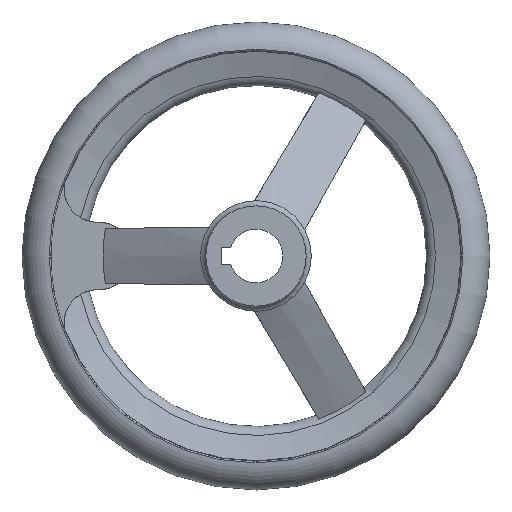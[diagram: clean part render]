
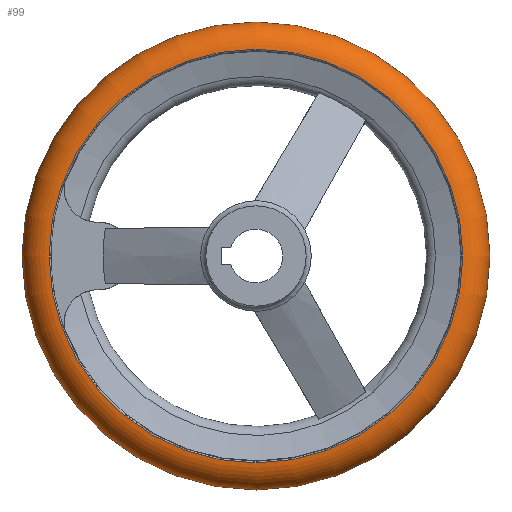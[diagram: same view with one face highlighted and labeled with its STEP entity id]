
A CAD part, left-side view. The second image highlights one B-rep face of the part: STEP entity #99.
In plain terms, the highlighted toroidal (fillet/blend) face has major radius 61.492 mm and minor radius 8.508 mm.
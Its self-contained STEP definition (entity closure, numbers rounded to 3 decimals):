
#99 = ADVANCED_FACE( '', ( #175, #176, #177 ), #178, .T. );
#175 = FACE_BOUND( '', #276, .T. );
#176 = FACE_OUTER_BOUND( '', #277, .T. );
#177 = FACE_OUTER_BOUND( '', #278, .T. );
#178 = TOROIDAL_SURFACE( '', #279, 61.492, 8.508 );
#276 = VERTEX_LOOP( '', #527 );
#277 = EDGE_LOOP( '', ( #528 ) );
#278 = EDGE_LOOP( '', ( #529 ) );
#279 = AXIS2_PLACEMENT_3D( '', #530, #531, #532 );
#527 = VERTEX_POINT( '', #744 );
#528 = ORIENTED_EDGE( '', *, *, #745, .T. );
#529 = ORIENTED_EDGE( '', *, *, #743, .F. );
#530 = CARTESIAN_POINT( '', ( 30.5, 0., 0. ) );
#531 = DIRECTION( '', ( -1., 0., 0. ) );
#532 = DIRECTION( '', ( 0., -1., 0. ) );
#743 = EDGE_CURVE( '', #914, #914, #915, .T. );
#744 = CARTESIAN_POINT( '', ( 30.5, -70., 0. ) );
#745 = EDGE_CURVE( '', #916, #916, #917, .T. );
#914 = VERTEX_POINT( '', #1514 );
#915 = CIRCLE( '', #1515, 61.854 );
#916 = VERTEX_POINT( '', #1516 );
#917 = CIRCLE( '', #1517, 61.854 );
#1514 = CARTESIAN_POINT( '', ( 22., -61.854, 0. ) );
#1515 = AXIS2_PLACEMENT_3D( '', #1671, #1672, #1673 );
#1516 = CARTESIAN_POINT( '', ( 39., -61.854, 0. ) );
#1517 = AXIS2_PLACEMENT_3D( '', #1674, #1675, #1676 );
#1671 = CARTESIAN_POINT( '', ( 22., 0., 0. ) );
#1672 = DIRECTION( '', ( -1., 0., 0. ) );
#1673 = DIRECTION( '', ( 0., -1., 0. ) );
#1674 = CARTESIAN_POINT( '', ( 39., 0., 0. ) );
#1675 = DIRECTION( '', ( -1., 0., 0. ) );
#1676 = DIRECTION( '', ( 0., -1., 0. ) );
